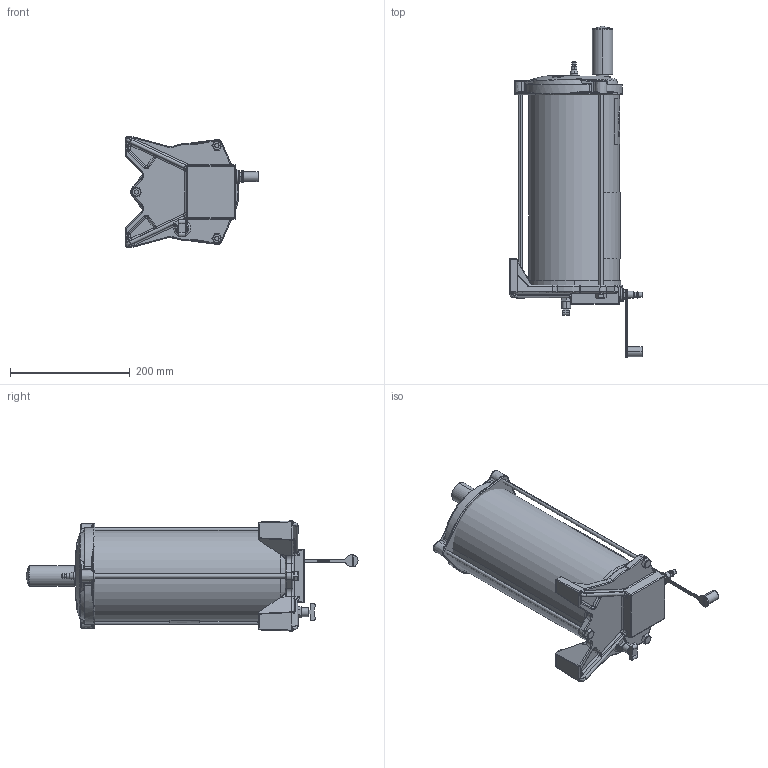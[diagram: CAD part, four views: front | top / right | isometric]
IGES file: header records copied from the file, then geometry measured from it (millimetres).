
Start section:  PTC IGES file: 562884-en-f.igs
Global section: file name: 562884-en-f.igs; native system: Creo Parametric by PTC Inc.; preprocessor: 2019030; author: qusrh3; organization: Unknown; date: 20191231.212328; units: inch
Bounding box: 222.23 x 554.61 x 184.04 mm (x, y, z)
Surface area: 401014.7 mm2 (no closed solid volume)
Topology: 0 solids, 0 shells, 806 faces, 4494 edges, 4492 vertices
Faces by surface type: bspline 405, revolution 397, extrusion 4
